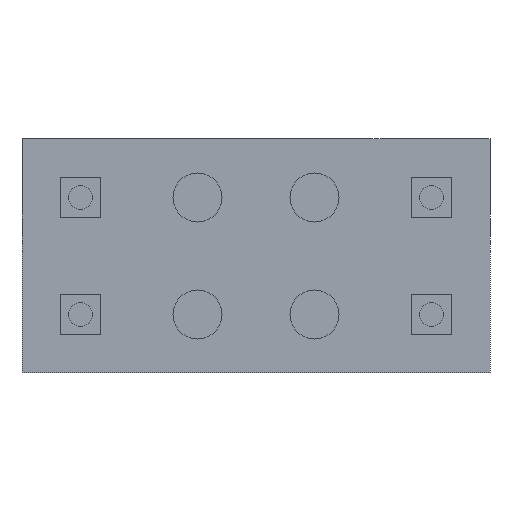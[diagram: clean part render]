
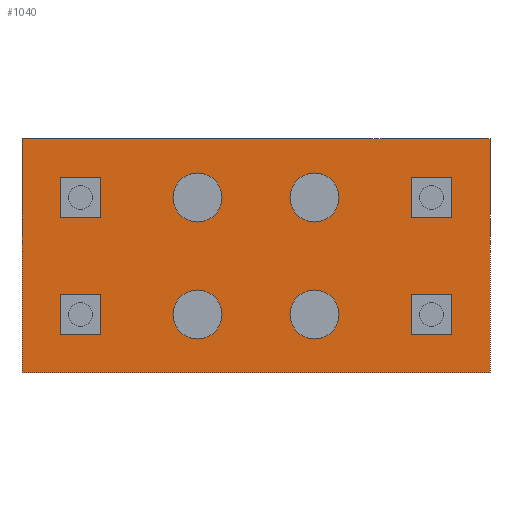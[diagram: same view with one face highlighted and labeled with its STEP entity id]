
A CAD part, front view. The second image highlights one B-rep face of the part: STEP entity #1040.
In plain terms, the highlighted planar face has unit normal (0, -1, 0).
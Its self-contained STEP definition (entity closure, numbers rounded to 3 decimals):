
#123=CARTESIAN_POINT('',(-64.5,0.,-20.));
#124=VERTEX_POINT('',#123);
#125=CARTESIAN_POINT('',(-60.,0.0,-20.));
#126=DIRECTION('',(0.0,1.0,0.0));
#127=DIRECTION('',(-1.0,0.0,0.0));
#128=AXIS2_PLACEMENT_3D('',#125,#126,#127);
#129=CIRCLE('',#128,4.5);
#130=EDGE_CURVE('',#124,#124,#129,.T.);
#140=CARTESIAN_POINT('',(-28.4,0.,-20.));
#141=VERTEX_POINT('',#140);
#142=CARTESIAN_POINT('',(-20.,0.,-20.));
#143=DIRECTION('',(0.0,1.0,0.0));
#144=DIRECTION('',(-1.0,0.0,0.0));
#145=AXIS2_PLACEMENT_3D('',#142,#143,#144);
#146=CIRCLE('',#145,8.4);
#147=EDGE_CURVE('',#141,#141,#146,.T.);
#220=CARTESIAN_POINT('',(64.5,0.,-20.));
#221=VERTEX_POINT('',#220);
#222=CARTESIAN_POINT('',(60.,0.0,-20.));
#223=DIRECTION('',(0.0,1.0,0.0));
#224=DIRECTION('',(1.0,0.0,0.0));
#225=AXIS2_PLACEMENT_3D('',#222,#223,#224);
#226=CIRCLE('',#225,4.5);
#227=EDGE_CURVE('',#221,#221,#226,.T.);
#258=CARTESIAN_POINT('',(28.4,0.,-20.));
#259=VERTEX_POINT('',#258);
#260=CARTESIAN_POINT('',(20.,0.,-20.));
#261=DIRECTION('',(0.0,1.0,0.0));
#262=DIRECTION('',(1.0,0.0,0.0));
#263=AXIS2_PLACEMENT_3D('',#260,#261,#262);
#264=CIRCLE('',#263,8.4);
#265=EDGE_CURVE('',#259,#259,#264,.T.);
#338=CARTESIAN_POINT('',(-64.5,0.,20.));
#339=VERTEX_POINT('',#338);
#340=CARTESIAN_POINT('',(-60.,0.0,20.));
#341=DIRECTION('',(0.0,1.0,0.0));
#342=DIRECTION('',(-1.0,0.0,0.0));
#343=AXIS2_PLACEMENT_3D('',#340,#341,#342);
#344=CIRCLE('',#343,4.5);
#345=EDGE_CURVE('',#339,#339,#344,.T.);
#355=CARTESIAN_POINT('',(-28.4,0.,20.));
#356=VERTEX_POINT('',#355);
#357=CARTESIAN_POINT('',(-20.,0.,20.));
#358=DIRECTION('',(0.0,1.0,0.0));
#359=DIRECTION('',(-1.0,0.0,0.0));
#360=AXIS2_PLACEMENT_3D('',#357,#358,#359);
#361=CIRCLE('',#360,8.4);
#362=EDGE_CURVE('',#356,#356,#361,.T.);
#435=CARTESIAN_POINT('',(64.5,0.,20.));
#436=VERTEX_POINT('',#435);
#437=CARTESIAN_POINT('',(60.,0.0,20.));
#438=DIRECTION('',(0.0,1.0,0.0));
#439=DIRECTION('',(1.0,0.0,0.0));
#440=AXIS2_PLACEMENT_3D('',#437,#438,#439);
#441=CIRCLE('',#440,4.5);
#442=EDGE_CURVE('',#436,#436,#441,.T.);
#473=CARTESIAN_POINT('',(28.4,0.,20.));
#474=VERTEX_POINT('',#473);
#475=CARTESIAN_POINT('',(20.,0.,20.));
#476=DIRECTION('',(0.0,1.0,0.0));
#477=DIRECTION('',(1.0,0.0,0.0));
#478=AXIS2_PLACEMENT_3D('',#475,#476,#477);
#479=CIRCLE('',#478,8.4);
#480=EDGE_CURVE('',#474,#474,#479,.T.);
#542=CARTESIAN_POINT('',(80.,0.0,-40.));
#543=VERTEX_POINT('',#542);
#552=CARTESIAN_POINT('',(-80.,0.,-40.));
#553=VERTEX_POINT('',#552);
#554=CARTESIAN_POINT('',(-80.,0.,-40.));
#555=DIRECTION('',(1.0,0.0,0.0));
#556=VECTOR('',#555,160.0);
#557=LINE('',#554,#556);
#558=EDGE_CURVE('',#553,#543,#557,.T.);
#662=CARTESIAN_POINT('',(-80.,0.,40.));
#663=VERTEX_POINT('',#662);
#679=CARTESIAN_POINT('',(-80.,0.,40.));
#680=DIRECTION('',(0.0,0.0,-1.0));
#681=VECTOR('',#680,80.);
#682=LINE('',#679,#681);
#683=EDGE_CURVE('',#663,#553,#682,.T.);
#981=CARTESIAN_POINT('',(80.,0.0,40.));
#982=VERTEX_POINT('',#981);
#989=CARTESIAN_POINT('',(80.,0.0,-40.));
#990=DIRECTION('',(0.0,0.0,1.0));
#991=VECTOR('',#990,80.);
#992=LINE('',#989,#991);
#993=EDGE_CURVE('',#543,#982,#992,.T.);
#1000=CARTESIAN_POINT('',(80.,0.0,0.0));
#1001=DIRECTION('',(0.0,-1.0,0.0));
#1002=DIRECTION('',(0.0,0.0,-1.0));
#1003=AXIS2_PLACEMENT_3D('',#1000,#1001,#1002);
#1004=PLANE('',#1003);
#1005=CARTESIAN_POINT('',(80.,0.0,40.));
#1006=DIRECTION('',(-1.0,0.0,0.0));
#1007=VECTOR('',#1006,160.0);
#1008=LINE('',#1005,#1007);
#1009=EDGE_CURVE('',#982,#663,#1008,.T.);
#1010=ORIENTED_EDGE('',*,*,#1009,.T.);
#1011=ORIENTED_EDGE('',*,*,#683,.T.);
#1012=ORIENTED_EDGE('',*,*,#558,.T.);
#1013=ORIENTED_EDGE('',*,*,#993,.T.);
#1014=EDGE_LOOP('',(#1010,#1011,#1012,#1013));
#1015=FACE_OUTER_BOUND('',#1014,.T.);
#1016=ORIENTED_EDGE('',*,*,#130,.T.);
#1017=EDGE_LOOP('',(#1016));
#1018=FACE_BOUND('',#1017,.T.);
#1019=ORIENTED_EDGE('',*,*,#147,.T.);
#1020=EDGE_LOOP('',(#1019));
#1021=FACE_BOUND('',#1020,.T.);
#1022=ORIENTED_EDGE('',*,*,#227,.T.);
#1023=EDGE_LOOP('',(#1022));
#1024=FACE_BOUND('',#1023,.T.);
#1025=ORIENTED_EDGE('',*,*,#265,.T.);
#1026=EDGE_LOOP('',(#1025));
#1027=FACE_BOUND('',#1026,.T.);
#1028=ORIENTED_EDGE('',*,*,#345,.T.);
#1029=EDGE_LOOP('',(#1028));
#1030=FACE_BOUND('',#1029,.T.);
#1031=ORIENTED_EDGE('',*,*,#362,.T.);
#1032=EDGE_LOOP('',(#1031));
#1033=FACE_BOUND('',#1032,.T.);
#1034=ORIENTED_EDGE('',*,*,#442,.T.);
#1035=EDGE_LOOP('',(#1034));
#1036=FACE_BOUND('',#1035,.T.);
#1037=ORIENTED_EDGE('',*,*,#480,.T.);
#1038=EDGE_LOOP('',(#1037));
#1039=FACE_BOUND('',#1038,.T.);
#1040=ADVANCED_FACE('',(#1015,#1018,#1021,#1024,#1027,#1030,#1033,#1036,#1039),#1004,.T.);
